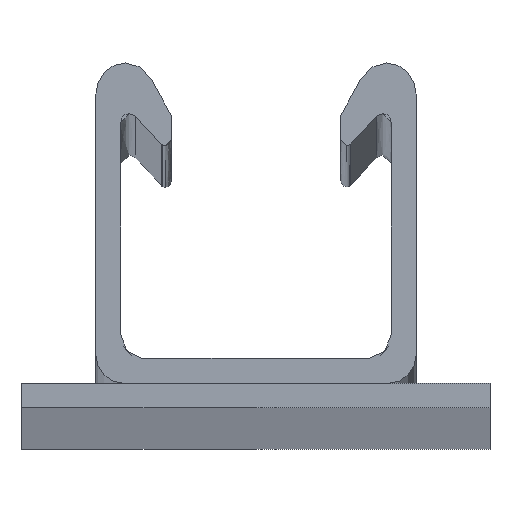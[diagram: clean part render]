
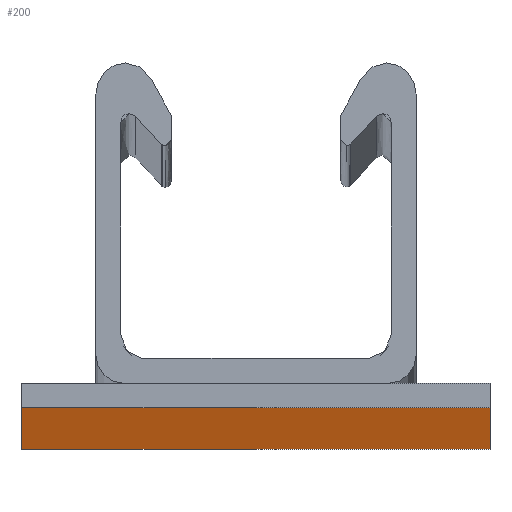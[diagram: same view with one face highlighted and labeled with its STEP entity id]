
A CAD part, top view. The second image highlights one B-rep face of the part: STEP entity #200.
In plain terms, the highlighted planar face has unit normal (0, -1, 0).
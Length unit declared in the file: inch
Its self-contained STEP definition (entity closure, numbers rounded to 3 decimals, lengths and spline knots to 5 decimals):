
#200=ADVANCED_FACE('',(#391),#392,.T.);
#391=FACE_OUTER_BOUND('',#830,.T.);
#392=PLANE('',#831);
#830=EDGE_LOOP('',(#1177,#1178,#1179,#1180));
#831=AXIS2_PLACEMENT_3D('',#1181,#1182,#1183);
#1177=ORIENTED_EDGE('',*,*,#1354,.T.);
#1178=ORIENTED_EDGE('',*,*,#1361,.F.);
#1179=ORIENTED_EDGE('',*,*,#1427,.F.);
#1180=ORIENTED_EDGE('',*,*,#1410,.T.);
#1181=CARTESIAN_POINT('',(1.1875,0.0,0.0));
#1182=DIRECTION('',(0.0,-1.0,0.0));
#1183=DIRECTION('',(1.0,0.0,-0.0));
#1354=EDGE_CURVE('',#1512,#1513,#1514,.T.);
#1361=EDGE_CURVE('',#1523,#1513,#1525,.T.);
#1410=EDGE_CURVE('',#1601,#1512,#1602,.T.);
#1427=EDGE_CURVE('',#1601,#1523,#1627,.T.);
#1512=VERTEX_POINT('',#1742);
#1513=VERTEX_POINT('',#1743);
#1514=LINE('',#1744,#1745);
#1523=VERTEX_POINT('',#1758);
#1525=LINE('',#1761,#1762);
#1601=VERTEX_POINT('',#1887);
#1602=LINE('',#1888,#1889);
#1627=LINE('',#1931,#1932);
#1742=CARTESIAN_POINT('',(2.375,0.0,120.0));
#1743=CARTESIAN_POINT('',(0.0,0.0,120.0));
#1744=CARTESIAN_POINT('',(2.375,0.0,120.0));
#1745=VECTOR('',#2065,1.0);
#1758=CARTESIAN_POINT('',(0.0,0.0,0.0));
#1761=CARTESIAN_POINT('',(0.0,0.0,0.0));
#1762=VECTOR('',#2071,1.0);
#1887=CARTESIAN_POINT('',(2.375,0.0,0.0));
#1888=CARTESIAN_POINT('',(2.375,0.0,0.0));
#1889=VECTOR('',#2103,1.0);
#1931=CARTESIAN_POINT('',(2.375,0.0,0.0));
#1932=VECTOR('',#2115,1.0);
#2065=DIRECTION('',(-1.0,0.0,0.0));
#2071=DIRECTION('',(0.0,0.0,1.0));
#2103=DIRECTION('',(0.0,0.0,1.0));
#2115=DIRECTION('',(-1.0,0.0,0.0));
